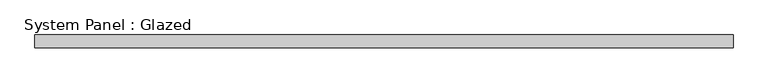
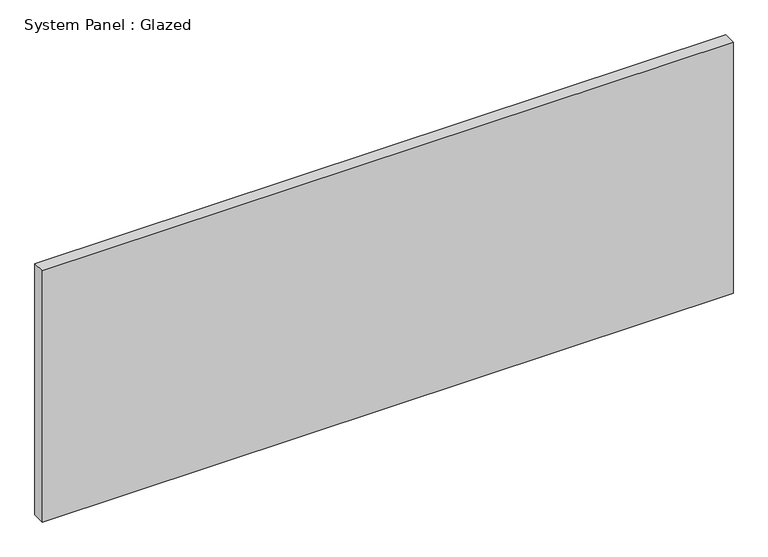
"""IFC4 building model written with IfcOpenShell, lengths in millimetres: plate geometry, System Panel : Glazed."""

from ifc_helpers import new_model, si_unit, origin, origin_with_axes, place, context, project, spatial, polyline, outline, extrude, source, transform, mapped, element, save


def system_panel_glazed_dc6e28a8(model_context):
    return source(origin(), model_context, "Body", "SweptSolid", [
        extrude(outline(polyline([(683.0484492, 24.5), (-683.0484492, 24.5), (-683.0484492, 49.5), (683.0484492, 49.5), (683.0484492, 24.5)])), origin_with_axes(), (0.0, 0.0, 1.0), 525.0),
    ])


if __name__ == "__main__":
    model = new_model("IFC4")
    model_context = context("Model", 3, world=origin())
    ifc_project = project(units=[si_unit("LENGTHUNIT", "METRE", prefix="MILLI")], contexts=[model_context])
    site = spatial("IfcSite", under=ifc_project)
    building = spatial("IfcBuilding", under=site)
    placement = place(None, origin())
    system_panel_glazed_shape = system_panel_glazed_dc6e28a8(model_context)
    element("IfcPlate", 1, ObjectType="System Panel : Glazed", at=placement, inside=building, context=model_context, shape_type="MappedRepresentation", body=[
        mapped(system_panel_glazed_shape, transform((0.0, 0.0, 0.0), x_axis=(1.0, 0.0, 0.0), y_axis=(0.0, 1.0, 0.0), z_axis=(0.0, 0.0, 1.0))),
    ])
    save(model, "model.ifc")
